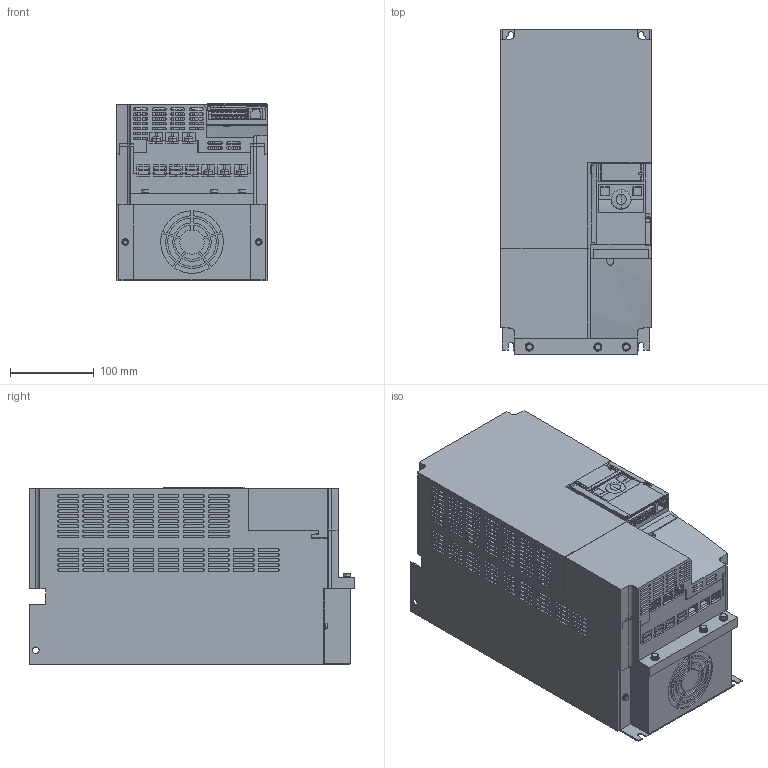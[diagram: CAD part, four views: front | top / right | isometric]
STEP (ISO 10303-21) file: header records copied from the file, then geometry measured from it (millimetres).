
FILE_DESCRIPTION(('STEP AP203'),'1');
FILE_NAME('vfnc3c_s6_001.stp','2020-11-06T07:16:47',(' '),(' '),'Spatial InterOp 3D',' ',' ');
FILE_SCHEMA(('CONFIG_CONTROL_DESIGN'));
Length unit declared in the file: metre
Products named in the file (8): vfnc3c_s6_001; VFNC3C_DRIVE_S6; VFNC3C_CONTROL_DOOR; VFNC3C_IT_SCREW_S6; VFNC3C_TERM_SCREW_S6; VFNC3C_WIRING_TRAP_S6; VFNC3C_TERMINAL_COVER_S6; VFNC3C_GROUNDING_SCREW_S6
Assembly tree (16 placements, depth 2):
  vfnc3c_s6_001
    VFNC3C_DRIVE_S6
    VFNC3C_CONTROL_DOOR
    VFNC3C_IT_SCREW_S6
    VFNC3C_TERM_SCREW_S6  x8
    VFNC3C_WIRING_TRAP_S6
    VFNC3C_TERMINAL_COVER_S6
    VFNC3C_GROUNDING_SCREW_S6  x3
Bounding box: 180 x 390 x 211.9 mm (x, y, z)
Volume: 12644800.7 mm3; surface area: 569639 mm2
Topology: 16 solids, 16 shells, 4168 faces, 11300 edges, 7502 vertices
Faces by surface type: plane 2660, cylinder 1449, torus 33, cone 13, bspline 7, sphere 6
Entity records: 121757 total; most frequent: CARTESIAN_POINT 21890, DIRECTION 20774, ORIENTED_EDGE 20740, EDGE_CURVE 10370, LINE 7520, VECTOR 7520, VERTEX_POINT 6890, AXIS2_PLACEMENT_3D 6627
